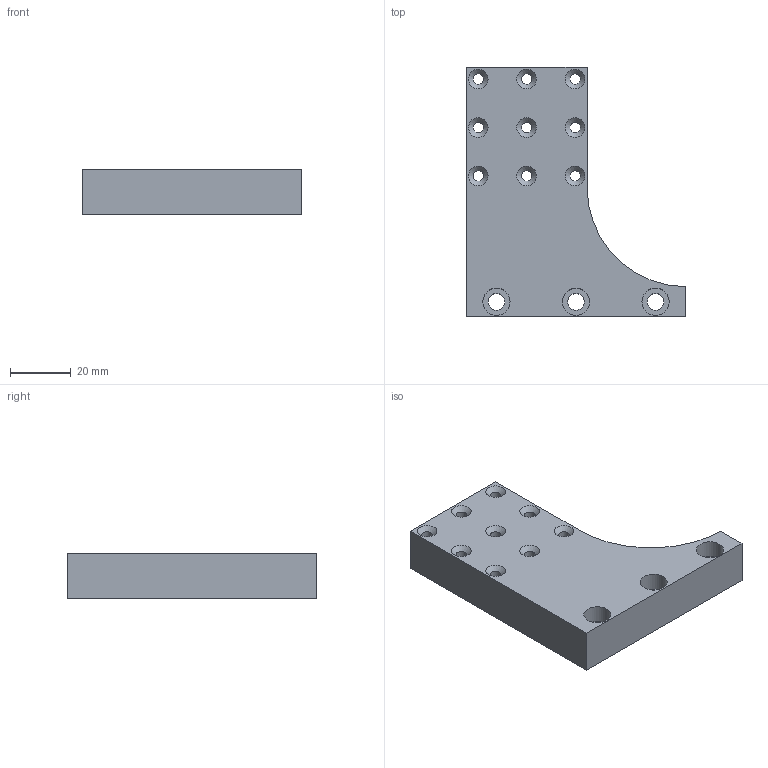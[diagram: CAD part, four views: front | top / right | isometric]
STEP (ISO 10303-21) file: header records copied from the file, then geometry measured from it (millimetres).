
FILE_DESCRIPTION(/* description */ ('','CAx-IF Rec.Pracs.---Representation and Presentation of Product Manufacturing Information (PMI)---3.8---2014-02-18'),/* implementation_level */ '2;1');
FILE_NAME(/* name */ 'D:\Inventor\1p2p\for vendors\DM mount\Optima order\stages2DM_support.stp',/* time_stamp */ '2018-05-07T12:38:19-07:00',/* author */ ('Radek'),/* organization */ (''),/* preprocessor_version */ 'ST-DEVELOPER v16.5',/* originating_system */ 'Autodesk Inventor 2017',/* authorisation */ '');
FILE_SCHEMA (('AP242_MANAGED_MODEL_BASED_3D_ENGINEERING_MIM_LF { 1 0 10303 442 1 1 4 }'));
Length unit declared in the file: millimetre
Products named in the file (1): stages2DM_support
Bounding box: 72.61 x 82.61 x 15 mm (x, y, z)
Volume: 54528.2 mm3; surface area: 14443.7 mm2
Topology: 1 solids, 1 shells, 39 faces, 87 edges, 55 vertices
Faces by surface type: cylinder 18, plane 12, cone 9
Full cylindrical faces by diameter (mm): 2.5 x2, 3.5 x9, 5.5 x3, 9 x3
Entity records: 1042 total; most frequent: DIRECTION 186, CARTESIAN_POINT 156, ORIENTED_EDGE 122, EDGE_LOOP 94, AXIS2_PLACEMENT_3D 85, EDGE_CURVE 61, FACE_BOUND 55, VERTEX_POINT 55
